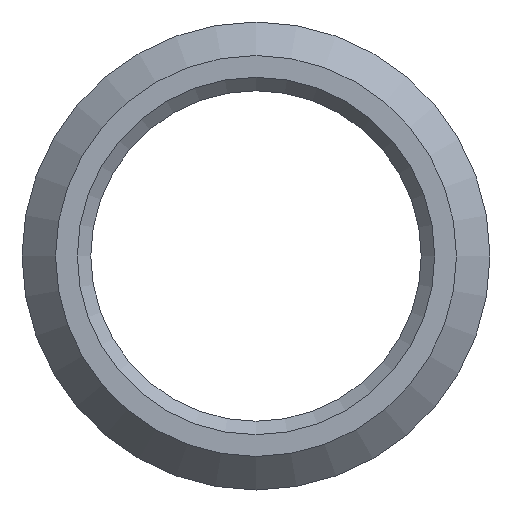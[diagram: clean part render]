
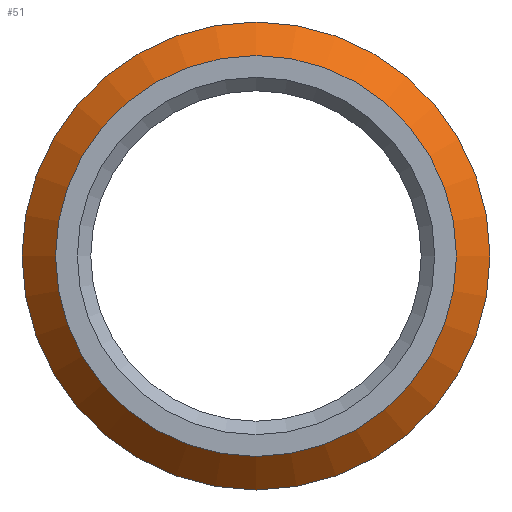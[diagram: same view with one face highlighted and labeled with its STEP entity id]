
A CAD part, front view. The second image highlights one B-rep face of the part: STEP entity #51.
In plain terms, the highlighted conical face has half-angle 45 degrees and reference radius 9.727 mm.
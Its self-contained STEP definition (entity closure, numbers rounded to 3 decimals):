
#51=ADVANCED_FACE('',(#115,#117),#119,.T.);
#115=FACE_OUTER_BOUND('',#116,.T.);
#116=EDGE_LOOP('',(#138));
#117=FACE_OUTER_BOUND('',#118,.T.);
#118=EDGE_LOOP('',(#139));
#119=CONICAL_SURFACE('',#120,9.728,0.785);
#120=AXIS2_PLACEMENT_3D('',#121,#122,#123);
#121=CARTESIAN_POINT('',(0.,0.75,0.));
#122=DIRECTION('',(0.,1.,0.));
#123=DIRECTION('',(-1.,0.,0.));
#138=ORIENTED_EDGE('',*,*,#147,.T.);
#139=ORIENTED_EDGE('',*,*,#145,.F.);
#145=EDGE_CURVE('',#158,#158,#159,.T.);
#147=EDGE_CURVE('',#162,#162,#163,.T.);
#158=VERTEX_POINT('',#189);
#159=CIRCLE('',#190,10.478);
#162=VERTEX_POINT('',#199);
#163=CIRCLE('',#200,8.978);
#189=CARTESIAN_POINT('',(-10.478,1.5,0.));
#190=AXIS2_PLACEMENT_3D('',#191,#192,#193);
#191=CARTESIAN_POINT('',(0.,1.5,0.));
#192=DIRECTION('',(0.,1.,0.));
#193=DIRECTION('',(-1.,0.,0.));
#199=CARTESIAN_POINT('',(-8.978,0.,0.));
#200=AXIS2_PLACEMENT_3D('',#201,#202,#203);
#201=CARTESIAN_POINT('',(0.,0.,0.));
#202=DIRECTION('',(0.,1.,0.));
#203=DIRECTION('',(-1.,0.,0.));
